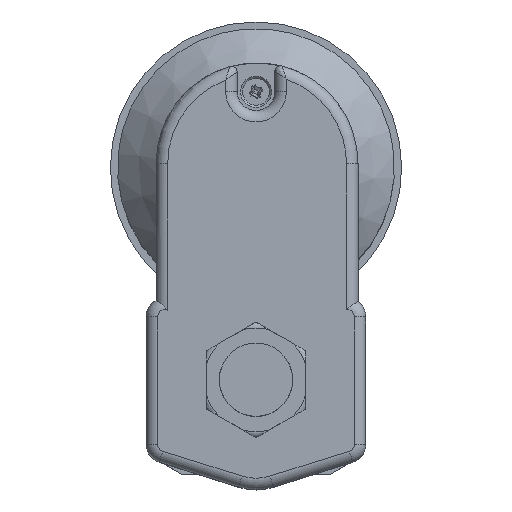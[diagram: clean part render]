
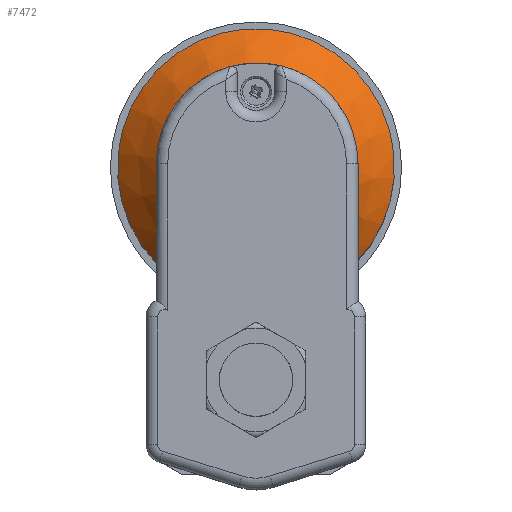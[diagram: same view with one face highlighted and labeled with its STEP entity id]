
A CAD part, top view. The second image highlights one B-rep face of the part: STEP entity #7472.
In plain terms, the highlighted conical face has half-angle 45 degrees and reference radius 48 mm.
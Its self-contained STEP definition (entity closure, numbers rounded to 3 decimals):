
#1190 = FACE_OUTER_BOUND ( 'NONE', #6754, .T. ) ;
#1192 = CONICAL_SURFACE ( 'NONE', #4098, 48., 0.785 ) ;
#1196 = FACE_BOUND ( 'NONE', #6598, .T. ) ;
#2134 = DIRECTION ( 'NONE',  ( 0., 1., 0. ) ) ;
#2145 = CARTESIAN_POINT ( 'NONE',  ( 0., 73.9, 53.5 ) ) ;
#2146 = DIRECTION ( 'NONE',  ( 0., 0., -1. ) ) ;
#2178 = CARTESIAN_POINT ( 'NONE',  ( -27.908, 34.847, 53.5 ) ) ;
#2325 = CARTESIAN_POINT ( 'NONE',  ( 27.908, 34.847, 53.5 ) ) ;
#2632 = VERTEX_POINT ( 'NONE', #2633 ) ;
#2633 = CARTESIAN_POINT ( 'NONE',  ( 0., 39.9, 67.5 ) ) ;
#3270 = CARTESIAN_POINT ( 'NONE',  ( -26.826, 34.768, 54.065 ) ) ;
#3273 = DIRECTION ( 'NONE',  ( 0., 0., 1. ) ) ;
#3331 = CARTESIAN_POINT ( 'NONE',  ( 0., 73.9, 53.5 ) ) ;
#3433 = DIRECTION ( 'NONE',  ( 0., -1., 0. ) ) ;
#3434 = DIRECTION ( 'NONE',  ( 0., 0., 1. ) ) ;
#3435 = CARTESIAN_POINT ( 'NONE',  ( 0., 73.9, 67.5 ) ) ;
#3436 = CARTESIAN_POINT ( 'NONE',  ( 27.908, 34.847, 53.5 ) ) ;
#3437 = CARTESIAN_POINT ( 'NONE',  ( 25.745, 34.688, 54.629 ) ) ;
#3438 = CARTESIAN_POINT ( 'NONE',  ( 23.55, 34.529, 55.668 ) ) ;
#3439 = CARTESIAN_POINT ( 'NONE',  ( 19.078, 34.224, 57.523 ) ) ;
#3440 = CARTESIAN_POINT ( 'NONE',  ( 16.801, 34.078, 58.337 ) ) ;
#3441 = CARTESIAN_POINT ( 'NONE',  ( 13.307, 33.888, 59.348 ) ) ;
#3442 = CARTESIAN_POINT ( 'NONE',  ( 12.13, 33.83, 59.65 ) ) ;
#3443 = CARTESIAN_POINT ( 'NONE',  ( 9.746, 33.726, 60.177 ) ) ;
#3444 = CARTESIAN_POINT ( 'NONE',  ( 8.537, 33.68, 60.402 ) ) ;
#3445 = CARTESIAN_POINT ( 'NONE',  ( 4.908, 33.569, 60.942 ) ) ;
#3446 = CARTESIAN_POINT ( 'NONE',  ( 2.477, 33.529, 61.127 ) ) ;
#3447 = CARTESIAN_POINT ( 'NONE',  ( -1.188, 33.529, 61.13 ) ) ;
#3448 = CARTESIAN_POINT ( 'NONE',  ( -2.415, 33.538, 61.085 ) ) ;
#3449 = CARTESIAN_POINT ( 'NONE',  ( -4.863, 33.577, 60.903 ) ) ;
#3450 = CARTESIAN_POINT ( 'NONE',  ( -6.081, 33.605, 60.767 ) ) ;
#3451 = CARTESIAN_POINT ( 'NONE',  ( -8.505, 33.679, 60.407 ) ) ;
#3452 = CARTESIAN_POINT ( 'NONE',  ( -9.715, 33.725, 60.183 ) ) ;
#3453 = CARTESIAN_POINT ( 'NONE',  ( -12.101, 33.829, 59.657 ) ) ;
#3454 = CARTESIAN_POINT ( 'NONE',  ( -13.28, 33.887, 59.356 ) ) ;
#3455 = CARTESIAN_POINT ( 'NONE',  ( -16.779, 34.077, 58.344 ) ) ;
#3456 = CARTESIAN_POINT ( 'NONE',  ( -19.06, 34.223, 57.53 ) ) ;
#3457 = CARTESIAN_POINT ( 'NONE',  ( -22.421, 34.452, 56.137 ) ) ;
#3458 = CARTESIAN_POINT ( 'NONE',  ( -25.733, 34.688, 54.609 ) ) ;
#3459 = CARTESIAN_POINT ( 'NONE',  ( -23.531, 34.53, 55.644 ) ) ;
#3510 = DIRECTION ( 'NONE',  ( 0., -1., 0. ) ) ;
#3523 = CARTESIAN_POINT ( 'NONE',  ( -27.908, 34.847, 53.5 ) ) ;
#4098 = AXIS2_PLACEMENT_3D ( 'NONE', #2145, #2146, #2134 ) ;
#4283 = AXIS2_PLACEMENT_3D ( 'NONE', #3331, #3273, #3510 ) ;
#4287 = AXIS2_PLACEMENT_3D ( 'NONE', #3435, #3434, #3433 ) ;
#5153 = B_SPLINE_CURVE_WITH_KNOTS ( 'NONE', 3,
 ( #3523, #3270, #3458, #3459, #3457, #3456, #3455, #3454, #3453, #3452, #3451, #3450, #3449, #3448, #3447, #3446, #3445, #3444, #3443, #3442, #3441, #3440, #3439, #3438, #3437, #3436 ),
 .UNSPECIFIED., .F., .F.,
 ( 4, 2, 2, 2, 2, 2, 2, 2, 2, 2, 2, 2, 4 ),
 ( 0., 0.004, 0.007, 0.015, 0.018, 0.022, 0.026, 0.029, 0.037, 0.04, 0.044, 0.051, 0.059 ),
 .UNSPECIFIED. ) ;
#5261 = CIRCLE ( 'NONE', #4283, 48. ) ;
#5281 = CIRCLE ( 'NONE', #4287, 34. ) ;
#6113 = EDGE_CURVE ( 'NONE', #9214, #9067, #5261, .T. ) ;
#6124 = EDGE_CURVE ( 'NONE', #9067, #9214, #5153, .T. ) ;
#6125 = EDGE_CURVE ( 'NONE', #2632, #2632, #5281, .T. ) ;
#6598 = EDGE_LOOP ( 'NONE', ( #7782 ) ) ;
#6754 = EDGE_LOOP ( 'NONE', ( #7783, #7784 ) ) ;
#7472 = ADVANCED_FACE ( 'NONE', ( #1196, #1190 ), #1192, .T. ) ;
#7782 = ORIENTED_EDGE ( 'NONE', *, *, #6125, .F. ) ;
#7783 = ORIENTED_EDGE ( 'NONE', *, *, #6113, .T. ) ;
#7784 = ORIENTED_EDGE ( 'NONE', *, *, #6124, .T. ) ;
#9067 = VERTEX_POINT ( 'NONE', #2178 ) ;
#9214 = VERTEX_POINT ( 'NONE', #2325 ) ;
